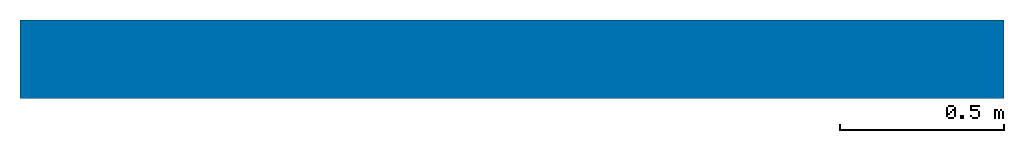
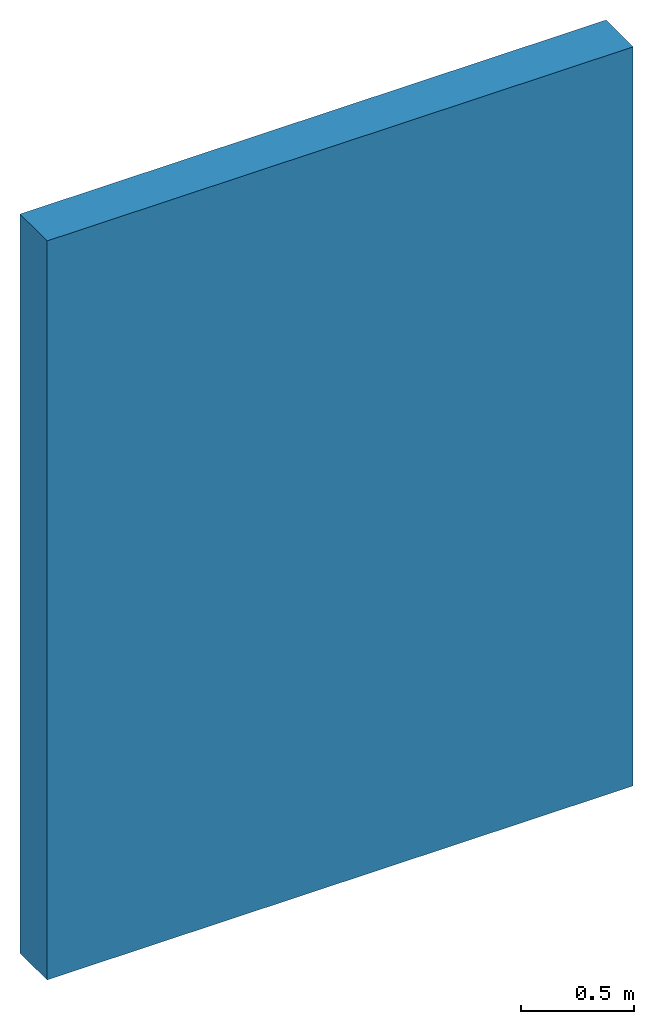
# One storey: 1 wall.
"""IFC2X3 building model written with IfcOpenShell, lengths in millimetres."""

import ifcopenshell
import ifcopenshell.guid

model = None  # the IFC model being written
_history = None  # IfcOwnerHistory: only IFC2X3 demands one
_inside = {}  # id of a spatial element -> (the spatial element, [elements in it])
_under = {}  # id of a project, library or spatial element -> (it, [spatial elements below it])
_declared = {}  # id of a project -> (the project, [libraries it declares])
_typed = {}  # id of a type object -> (the type object, [elements of that type])
_made_of = {}  # id of a material, layer set ... -> (it, [elements and type objects made of it])


def new_model(schema):
    """Start an empty IFC model of exactly this schema.

    Asked for "IFC4X3", IfcOpenShell would pick the latest addendum, in which some entities
    have other attributes; the version numbers below select the first issue.
    IFC2X3 requires an IfcOwnerHistory on every rooted entity: one is made here for all.
    """
    global model, _history
    if schema == "IFC4X3":
        model = ifcopenshell.file(schema_version=(4, 3, 0, 0))
    else:
        model = ifcopenshell.file(schema=schema)
    _inside.clear()
    _under.clear()
    _declared.clear()
    _typed.clear()
    _made_of.clear()
    _history = None
    if model.schema == "IFC2X3":
        org = make("IfcOrganization", Name="unknown")
        user = make(
            "IfcPersonAndOrganization",
            ThePerson=make("IfcPerson", FamilyName="unknown"),
            TheOrganization=org,
        )
        app = make(
            "IfcApplication",
            ApplicationDeveloper=org,
            Version="unknown",
            ApplicationFullName="unknown",
            ApplicationIdentifier="unknown",
        )
        _history = make(
            "IfcOwnerHistory",
            OwningUser=user,
            OwningApplication=app,
            ChangeAction="ADDED",
            CreationDate=0,
        )
    return model


def make(cls, **values):
    """One entity of the class cls with the attributes given. An attribute that is None is left unset."""
    return model.create_entity(
        cls, **{name: value for name, value in values.items() if value is not None}
    )


def entity(cls, *values):
    """Any entity or typed value of the class cls, its attributes in the order of the schema. None: left unset."""
    e = model.create_entity(cls)
    for i, value in enumerate(values):
        if value is not None:
            e[i] = value
    return e


def rooted(cls, **values):
    """An entity with a GlobalId (a new one), such as an element, a storey or a relation."""
    return make(cls, GlobalId=ifcopenshell.guid.new(), OwnerHistory=_history, **values)


def si_unit(unit_type, name, prefix=None):
    """IfcSIUnit, for example si_unit("LENGTHUNIT", "METRE", prefix="MILLI")."""
    return make("IfcSIUnit", UnitType=unit_type, Prefix=prefix, Name=name)


def converted_unit(unit_type, name, factor, base, dimensions=None, offset=None):
    """IfcConversionBasedUnit, such as the inch: factor (a typed value) times the base unit."""
    return make(
        "IfcConversionBasedUnit"
        if offset is None
        else "IfcConversionBasedUnitWithOffset",
        ConversionOffset=offset,
        Dimensions=None
        if dimensions is None
        else entity("IfcDimensionalExponents", *dimensions),
        UnitType=unit_type,
        Name=name,
        ConversionFactor=make(
            "IfcMeasureWithUnit", ValueComponent=factor, UnitComponent=base
        ),
    )


def derived_unit(unit_type, elements):
    """IfcDerivedUnit: a product of units, each with its exponent."""
    return make(
        "IfcDerivedUnit",
        Elements=[
            make("IfcDerivedUnitElement", Unit=unit, Exponent=power)
            for unit, power in elements
        ],
        UnitType=unit_type,
    )


def assignment(units):
    """IfcUnitAssignment: the units of a project."""
    return None if units is None else make("IfcUnitAssignment", Units=units)


def point(xyz):
    """IfcCartesianPoint."""
    return None if xyz is None else make("IfcCartesianPoint", Coordinates=xyz)


def direction(xyz):
    """IfcDirection."""
    return None if xyz is None else make("IfcDirection", DirectionRatios=xyz)


def frame(location, z_axis=None, x_axis=None):
    """IfcAxis2Placement3D, a coordinate frame: its origin and axes. An axis left out is left unset."""
    return make(
        "IfcAxis2Placement3D",
        Location=point(location),
        Axis=direction(z_axis),
        RefDirection=direction(x_axis),
    )


def frame_2d(location, x_axis=None):
    """IfcAxis2Placement2D, a coordinate frame in the plane: its origin and x axis."""
    return make(
        "IfcAxis2Placement2D", Location=point(location), RefDirection=direction(x_axis)
    )


def origin():
    """The frame at (0, 0, 0) with its axes left unset."""
    return frame((0.0, 0.0, 0.0))


def place(relative_to, where):
    """IfcLocalPlacement: puts the frame where relative to a parent placement (None: the world)."""
    return make(
        "IfcLocalPlacement", PlacementRelTo=relative_to, RelativePlacement=where
    )


def context(
    kind, dimensions, precision=None, world=None, true_north=None, identifier=None
):
    """IfcGeometricRepresentationContext, for example the 3D "Model" context."""
    return make(
        "IfcGeometricRepresentationContext",
        ContextIdentifier=identifier,
        ContextType=kind,
        CoordinateSpaceDimension=dimensions,
        Precision=precision,
        WorldCoordinateSystem=world,
        TrueNorth=true_north,
    )


def subcontext(parent, identifier, kind, view, scale=None):
    """IfcGeometricRepresentationSubContext, for example "Body" below "Model"."""
    return make(
        "IfcGeometricRepresentationSubContext",
        ContextIdentifier=identifier,
        ContextType=kind,
        ParentContext=parent,
        TargetScale=scale,
        TargetView=view,
    )


def project(units=None, contexts=None):
    """IfcProject with its units and contexts."""
    return rooted(
        "IfcProject",
        Name="project",
        RepresentationContexts=contexts,
        UnitsInContext=assignment(units),
    )


def spatial(cls, under=None, at=None, **own):
    """A site, building, storey or space (cls), placed at a placement, below another one or the project."""
    s = rooted(cls, ObjectPlacement=at, **own)
    if under is not None:
        _under.setdefault(under.id(), (under, []))[1].append(s)
    return s


def profile(cls, at=None, kind="AREA", **sizes):
    """A parametric profile (cls). Its sizes go by their IFC names, for example OverallWidth=200.0."""
    return make(cls, ProfileType=kind, Position=at, **sizes)


def rectangle(**sizes):
    """IfcRectangleProfileDef."""
    return profile("IfcRectangleProfileDef", **sizes)


def extrude(swept, where, along, depth):
    """IfcExtrudedAreaSolid: the profile swept, set in the frame where, extruded along a direction by depth."""
    return make(
        "IfcExtrudedAreaSolid",
        SweptArea=swept,
        Position=where,
        ExtrudedDirection=direction(along),
        Depth=depth,
    )


def shape(context_of_items, identifier, shape_type, items):
    """IfcShapeRepresentation: the items that make up one representation, for example the "Body"."""
    return make(
        "IfcShapeRepresentation",
        ContextOfItems=context_of_items,
        RepresentationIdentifier=identifier,
        RepresentationType=shape_type,
        Items=items,
    )


def material(Name=None, Category=None):
    """IfcMaterial."""
    return make("IfcMaterial", Name=Name, Category=Category)


def layer(
    of_material, thickness, ventilated=None, Name=None, Category=None, Priority=None
):
    """IfcMaterialLayer: one layer of a wall or slab, of a material (None: an air gap)."""
    return make(
        "IfcMaterialLayer",
        Material=of_material,
        LayerThickness=thickness,
        IsVentilated=ventilated,
        Name=Name,
        Category=Category,
        Priority=Priority,
    )


def layer_set(layers, Name=None):
    """IfcMaterialLayerSet."""
    return make("IfcMaterialLayerSet", MaterialLayers=layers, LayerSetName=Name)


def layer_usage(for_layer_set, set_direction, sense, offset, extent=None):
    """IfcMaterialLayerSetUsage: how a layer set lies in its element."""
    return make(
        "IfcMaterialLayerSetUsage",
        ForLayerSet=for_layer_set,
        LayerSetDirection=set_direction,
        DirectionSense=sense,
        OffsetFromReferenceLine=offset,
        ReferenceExtent=extent,
    )


def made_of(thing, what):
    """Note that an element or type object is made of a material, layer set ...; save() writes the relation."""
    if what is not None:
        _made_of.setdefault(what.id(), (what, []))[1].append(thing)
    return thing


def type_object(cls, material=None, **own):
    """A type object (cls), such as IfcWallType, which elements share."""
    return made_of(rooted(cls, **own), material)


def element(
    cls,
    number,
    at=None,
    inside=None,
    cuts=None,
    type_object=None,
    material=None,
    context=None,
    identifier="Body",
    shape_type=None,
    held_by="IfcProductDefinitionShape",
    body=None,
    shapes=None,
    **own,
):
    """One element of the class cls, such as IfcWall. Its Tag is "e" and its number.

    at: its placement. inside: the storey or other place that contains it. cuts: it is an
    opening in that element (IfcRelVoidsElement). A single representation is given by context,
    identifier, shape_type and body (its items); several are given by shapes. held_by: the class
    of the entity that holds the representations. save() writes the other relations.
    """
    e = rooted(cls, Tag="e%d" % number, ObjectPlacement=at, **own)
    if body is not None:
        shapes = [shape(context, identifier, shape_type, body)]
    if shapes is not None:
        e.Representation = make(held_by, Representations=shapes)
    if inside is not None:
        _inside.setdefault(inside.id(), (inside, []))[1].append(e)
    if cuts is not None:
        rooted(
            "IfcRelVoidsElement", RelatingBuildingElement=cuts, RelatedOpeningElement=e
        )
    if type_object is not None:
        _typed.setdefault(type_object.id(), (type_object, []))[1].append(e)
    return made_of(e, material)


def aggregate(whole, parts):
    """IfcRelAggregates: a whole, such as a stair, and the parts it consists of."""
    return rooted("IfcRelAggregates", RelatingObject=whole, RelatedObjects=parts)


def save(model, path):
    """Write the relations noted so far, then the file.

    IfcRelAggregates (storeys below a building ...), IfcRelContainedInSpatialStructure (elements
    in a storey), IfcRelDefinesByType, IfcRelAssociatesMaterial and IfcRelDeclares: one each for
    every whole, place, type object, material and project.
    """
    for whole, parts in _under.values():
        aggregate(whole, parts)
    for where, things in _inside.values():
        rooted(
            "IfcRelContainedInSpatialStructure",
            RelatedElements=things,
            RelatingStructure=where,
        )
    for kind, things in _typed.values():
        rooted("IfcRelDefinesByType", RelatedObjects=things, RelatingType=kind)
    for what, things in _made_of.values():
        rooted("IfcRelAssociatesMaterial", RelatedObjects=things, RelatingMaterial=what)
    for by, libraries in _declared.values():
        rooted("IfcRelDeclares", RelatingContext=by, RelatedDefinitions=libraries)
    model.write(path)


model = new_model("IFC2X3")

# Units and contexts
model_context = context("Model", 3, precision=0.01, world=origin(), true_north=direction((6.12303176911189e-17, 1.0)))
body_context = subcontext(model_context, "Body", "Model", "MODEL_VIEW")
ifc_project = project(units=[si_unit("LENGTHUNIT", "METRE", prefix="MILLI"), si_unit("AREAUNIT", "SQUARE_METRE"), si_unit("VOLUMEUNIT", "CUBIC_METRE"), converted_unit("PLANEANGLEUNIT", "DEGREE", entity("IfcRatioMeasure", 0.0174532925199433), si_unit("PLANEANGLEUNIT", "RADIAN"), dimensions=[0, 0, 0, 0, 0, 0, 0]), si_unit("MASSUNIT", "GRAM", prefix="KILO"), si_unit("TIMEUNIT", "SECOND"), si_unit("FREQUENCYUNIT", "HERTZ"), si_unit("THERMODYNAMICTEMPERATUREUNIT", "DEGREE_CELSIUS"), derived_unit("THERMALTRANSMITTANCEUNIT", [(si_unit("MASSUNIT", "GRAM", prefix="KILO"), 1), (si_unit("THERMODYNAMICTEMPERATUREUNIT", "KELVIN"), -1), (si_unit("TIMEUNIT", "SECOND"), -3)]), derived_unit("VOLUMETRICFLOWRATEUNIT", [(si_unit("LENGTHUNIT", "METRE"), 3), (si_unit("TIMEUNIT", "SECOND"), -1)]), si_unit("ELECTRICCURRENTUNIT", "AMPERE"), si_unit("ELECTRICVOLTAGEUNIT", "VOLT"), si_unit("POWERUNIT", "WATT"), si_unit("FORCEUNIT", "NEWTON", prefix="KILO"), si_unit("ILLUMINANCEUNIT", "LUX"), si_unit("LUMINOUSFLUXUNIT", "LUMEN"), si_unit("LUMINOUSINTENSITYUNIT", "CANDELA"), derived_unit("USERDEFINED", [(si_unit("MASSUNIT", "GRAM", prefix="KILO"), -1), (si_unit("LENGTHUNIT", "METRE"), -2), (si_unit("TIMEUNIT", "SECOND"), 3), (si_unit("LUMINOUSFLUXUNIT", "LUMEN"), 1)]), derived_unit("LINEARVELOCITYUNIT", [(si_unit("LENGTHUNIT", "METRE"), 1), (si_unit("TIMEUNIT", "SECOND"), -1)]), si_unit("PRESSUREUNIT", "PASCAL"), derived_unit("USERDEFINED", [(si_unit("LENGTHUNIT", "METRE"), -2), (si_unit("MASSUNIT", "GRAM", prefix="KILO"), 1), (si_unit("TIMEUNIT", "SECOND"), -2)])], contexts=[model_context])

# Site, building, storey
site_placement = place(None, origin())
site = spatial("IfcSite", under=ifc_project, at=site_placement, Name="Default", CompositionType="ELEMENT")
building_placement = place(site_placement, origin())
building = spatial("IfcBuilding", under=site, at=building_placement, CompositionType="ELEMENT")
storey_placement = place(building_placement, origin())
storey = spatial("IfcBuildingStorey", under=building, at=storey_placement, Name="Уровень 1", CompositionType="ELEMENT", Elevation=0.0)

# Wall
ifc_material_1 = material(Name="Кнауф-Плита пазогребневая")
ifc_layer_1 = layer(ifc_material_1, 80.0)
ifc_material_2 = material(Name="Luft")
ifc_layer_2 = layer(ifc_material_2, 80.0)
ifc_layer_3 = layer(ifc_material_1, 80.0)
ifc_layer_set = layer_set([ifc_layer_1, ifc_layer_2, ifc_layer_3], Name="Базовая стена:Перегородка КНАУФ ПГП 80 Применение внутри здания Двойная ПлГ 80")
ifc_layer_usage = layer_usage(ifc_layer_set, "AXIS2", "NEGATIVE", 120.0)
wall_type = type_object("IfcWallType", Name="Базовая стена:Перегородка КНАУФ ПГП 80 Применение внутри здания Двойная ПлГ 80", PredefinedType="STANDARD", material=ifc_layer_set)
wall_placement = place(storey_placement, frame((-1618.87939002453, 1028.28801289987, 0.0)))
element("IfcWallStandardCase", 1, at=wall_placement, inside=storey, type_object=wall_type, material=ifc_layer_usage, Name="Базовая стена:Перегородка КНАУФ ПГП 80 Применение внутри здания Двойная ПлГ 80", ObjectType="Базовая стена:Перегородка КНАУФ ПГП 80 Применение внутри здания Двойная ПлГ 80", context=body_context, shape_type="SweptSolid", body=[
    extrude(rectangle(XDim=3000.0, YDim=240.0, at=frame_2d((1500.0, 0.0), x_axis=(-1.0, 0.0))), origin(), (0.0, 0.0, 1.0), 4000.0),
])

save(model, "model.ifc")
